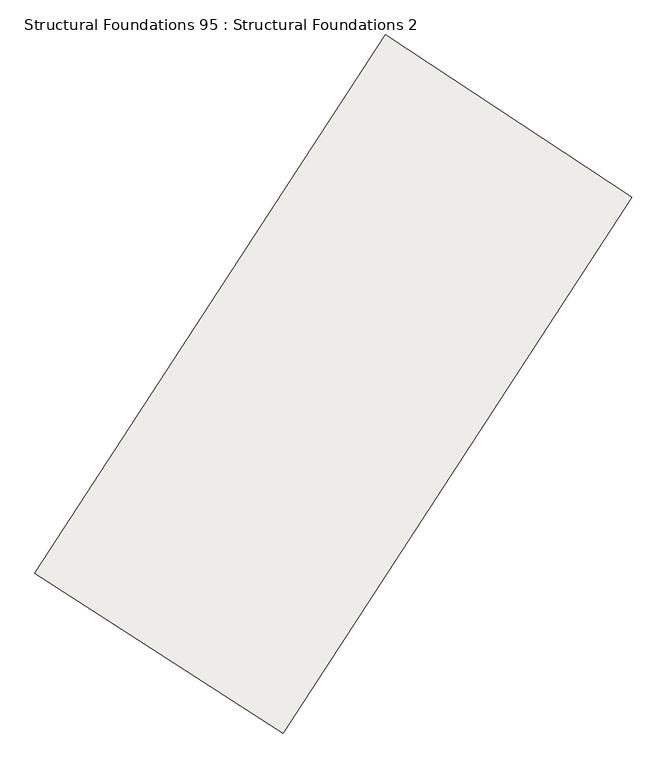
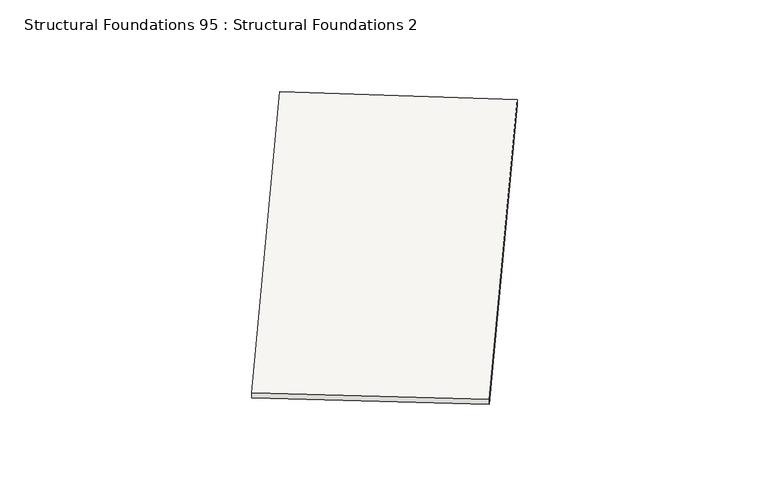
"""IFC4 building model written with IfcOpenShell, lengths in millimetres: slab geometry, Structural Foundations 95 : Structural Foundations 2."""

from ifc_helpers import new_model, si_unit, frame, origin, place, context, project, spatial, source, transform, mapped, element, save
from ifc_brep_helpers import plane_surface, spline_curve, spline_surface, advanced_brep


def structural_foundations_95_structural_foundations_2_a576208b(model_context):
    return source(origin(), model_context, "Body", "AdvancedBrep", [
        advanced_brep(
        [(-349152.9852336, -498333.8167805, 633360.0), (-349152.9852336, -498333.8167805, 633260.0), (-345789.1317483, -500498.1608344, 633260.0), (-345789.1317483, -500498.1608344, 633360.0), (-344397.512741, -491036.5946191, 633460.0), (-341059.3403541, -493239.77166, 633460.0), (-341059.3403541, -493239.77166, 633360.0), (-344397.512741, -491036.5946191, 633360.0)],
        [
            (0, 1),
            (1, 2),
            (2, 3),
            (3, 0),
            (4, 5),
            (5, 6),
            (6, 7),
            (7, 4),
            (4, 0, spline_curve(3, [(-344397.512741, -491036.5946191, 633460.0), (-345996.808241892, -493459.74929116, 633426.666666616), (-347582.001488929, -495892.211534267, 633393.333333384), (-349152.9852336, -498333.8167805, 633360.0)], [4, 4], [0.0, 28.50175079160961])),
            (3, 5, spline_curve(3, [(-345789.1317483, -500498.1608344, 633360.0), (-344226.633366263, -498069.550248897, 633393.333333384), (-342650.000491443, -495650.032330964, 633426.666666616), (-341059.3403541, -493239.77166, 633460.0)], [4, 4], [0.0, 28.50175079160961])),
            (7, 1, spline_curve(3, [(-344397.512741, -491036.5946191, 633360.0), (-345996.808242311, -493459.749291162, 633326.666666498), (-347582.001489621, -495892.211534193, 633293.333333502), (-349152.9852336, -498333.8167805, 633260.0)], [4, 4], [0.0, 28.5781168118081])),
            (6, 2, spline_curve(3, [(-341059.3403541, -493239.77166, 633360.0), (-342650.000491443, -495650.032330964, 633326.666666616), (-344226.633366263, -498069.550248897, 633293.333333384), (-345789.1317483, -500498.1608344, 633260.0)], [4, 4], [0.0, 28.50175079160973])),
        ],
        [
            plane_surface(frame((-347471.0584909, -499415.9888074, 633310.0), z_axis=(-0.541087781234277, -0.8409661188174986, 0.0), x_axis=(-0.8409661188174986, 0.541087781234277, 0.0))),
            plane_surface(frame((-342728.4265475, -492138.1831395, 633410.0), z_axis=(0.5508392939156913, 0.8346113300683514, 0.0), x_axis=(0.0, 0.0, -1.0))),
            spline_surface(3, 3, [[(-341059.3403541, -493239.77166, 633460.0), (-342650.000491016, -495650.032330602, 633426.666666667), (-344226.633366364, -498069.55024869, 633393.333333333), (-345789.1317483, -500498.1608344, 633360.0)], [(-342172.064483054, -492505.379313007, 633460.0), (-343765.603074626, -494919.937983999, 633426.666666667), (-345345.089407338, -497343.770677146, 633393.333333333), (-346910.416243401, -499776.712816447, 633360.0)], [(-343284.788612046, -491770.986966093, 633460.0), (-344881.205658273, -494189.843637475, 633426.666666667), (-346463.545448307, -496617.991105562, 633393.333333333), (-348031.700738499, -499055.264798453, 633360.0)], [(-344397.512741, -491036.5946191, 633460.0), (-345996.808241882, -493459.749290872, 633426.666666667), (-347582.001489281, -495892.211534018, 633393.333333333), (-349152.9852336, -498333.8167805, 633360.0)]], [4, 4], [4, 4], [0.0, 13.122801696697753], [0.0, 28.50175079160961]),
            spline_surface(3, 3, [[(-344397.512741, -491036.5946191, 633460.0), (-345996.808241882, -493459.749290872, 633426.666666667), (-347582.001489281, -495892.211534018, 633393.333333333), (-349152.9852336, -498333.8167805, 633360.0)], [(-344397.512741, -491036.5946191, 633426.666666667), (-345996.808241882, -493459.749290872, 633393.333333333), (-347582.001489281, -495892.211534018, 633360.0), (-349152.9852336, -498333.8167805, 633326.666666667)], [(-344397.512741, -491036.5946191, 633393.333333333), (-345996.808241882, -493459.749290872, 633360.0), (-347582.001489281, -495892.211534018, 633326.666666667), (-349152.9852336, -498333.8167805, 633293.333333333)], [(-344397.512741, -491036.5946191, 633360.0), (-345996.808241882, -493459.749290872, 633326.666666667), (-347582.001489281, -495892.211534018, 633293.333333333), (-349152.9852336, -498333.8167805, 633260.0)]], [4, 4], [4, 4], [0.0, 0.3280839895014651], [0.0, 28.5781168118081]),
            spline_surface(3, 3, [[(-344397.512741, -491036.5946191, 633360.0), (-345996.808241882, -493459.749290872, 633326.666666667), (-347582.001489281, -495892.211534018, 633293.333333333), (-349152.9852336, -498333.8167805, 633260.0)], [(-343284.788612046, -491770.986966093, 633360.0), (-344881.205658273, -494189.843637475, 633326.666666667), (-346463.545448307, -496617.991105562, 633293.333333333), (-348031.700738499, -499055.264798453, 633260.0)], [(-342172.064483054, -492505.379313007, 633360.0), (-343765.603074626, -494919.937983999, 633326.666666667), (-345345.089407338, -497343.770677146, 633293.333333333), (-346910.416243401, -499776.712816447, 633260.0)], [(-341059.3403541, -493239.77166, 633360.0), (-342650.000491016, -495650.032330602, 633326.666666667), (-344226.633366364, -498069.55024869, 633293.333333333), (-345789.1317483, -500498.1608344, 633260.0)]], [4, 4], [4, 4], [0.0, 13.122801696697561], [0.0, 28.50175079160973]),
            spline_surface(3, 3, [[(-341059.3403541, -493239.77166, 633360.0), (-342650.000491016, -495650.032330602, 633326.666666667), (-344226.633366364, -498069.55024869, 633293.333333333), (-345789.1317483, -500498.1608344, 633260.0)], [(-341059.3403541, -493239.77166, 633393.333333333), (-342650.000491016, -495650.032330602, 633360.0), (-344226.633366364, -498069.55024869, 633326.666666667), (-345789.1317483, -500498.1608344, 633293.333333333)], [(-341059.3403541, -493239.77166, 633426.666666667), (-342650.000491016, -495650.032330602, 633393.333333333), (-344226.633366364, -498069.55024869, 633360.0), (-345789.1317483, -500498.1608344, 633326.666666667)], [(-341059.3403541, -493239.77166, 633460.0), (-342650.000491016, -495650.032330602, 633426.666666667), (-344226.633366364, -498069.55024869, 633393.333333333), (-345789.1317483, -500498.1608344, 633360.0)]], [4, 4], [4, 4], [0.0, 0.3280839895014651], [0.0, 28.42538480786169]),
        ],
        [
            (0, [[1, 2, 3, 4]]),
            (1, [[5, 6, 7, 8]]),
            (2, [[-5, 9, -4, 10]]),
            (3, [[-8, 11, -1, -9]]),
            (4, [[-7, 12, -2, -11]]),
            (5, [[-6, -10, -3, -12]]),
        ],
    ),
    ])


if __name__ == "__main__":
    model = new_model("IFC4")
    model_context = context("Model", 3, world=origin())
    ifc_project = project(units=[si_unit("LENGTHUNIT", "METRE", prefix="MILLI")], contexts=[model_context])
    site = spatial("IfcSite", under=ifc_project)
    building = spatial("IfcBuilding", under=site)
    placement = place(None, origin())
    structural_foundations_95_structural_foundations_2_shape = structural_foundations_95_structural_foundations_2_a576208b(model_context)
    element("IfcSlab", 1, ObjectType="Structural Foundations 95 : Structural Foundations 2", at=placement, inside=building, context=model_context, shape_type="MappedRepresentation", body=[
        mapped(structural_foundations_95_structural_foundations_2_shape, transform((0.0, 0.0, 0.0), x_axis=(1.0, 0.0, 0.0), y_axis=(0.0, 1.0, 0.0), z_axis=(0.0, 0.0, 1.0))),
    ])
    save(model, "model.ifc")
